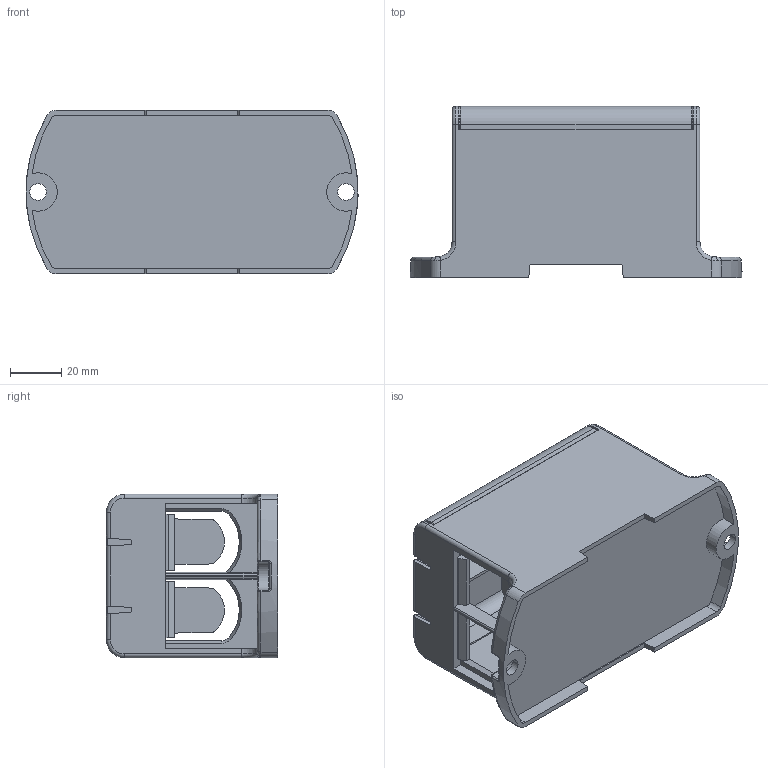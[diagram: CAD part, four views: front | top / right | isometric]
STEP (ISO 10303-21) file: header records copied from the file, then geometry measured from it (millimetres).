
FILE_DESCRIPTION((''),'2;1');
FILE_NAME('KE69_ASM','2016-05-30T',('Administrator'),(''),'PRO/ENGINEER BY PARAMETRIC TECHNOLOGY CORPORATION, 2009360','PRO/ENGINEER BY PARAMETRIC TECHNOLOGY CORPORATION, 2009360','');
FILE_SCHEMA(('CONFIG_CONTROL_DESIGN'));
Length unit declared in the file: millimetre
Products named in the file (3): KE69DI; KE69GAI; KE69_ASM
Assembly tree (2 placements, depth 2):
  KE69_ASM
    KE69DI
    KE69GAI
Bounding box: 129.95 x 67 x 64 mm (x, y, z)
Volume: 77325 mm3; surface area: 76328 mm2
Topology: 2 solids, 2 shells, 338 faces, 938 edges, 596 vertices
Faces by surface type: plane 186, cylinder 98, torus 30, cone 12, bspline 12
Entity records: 11320 total; most frequent: CARTESIAN_POINT 2469, ORIENTED_EDGE 1876, DIRECTION 1826, EDGE_CURVE 938, VECTOR 640, LINE 640, VERTEX_POINT 596, AXIS2_PLACEMENT_3D 593
